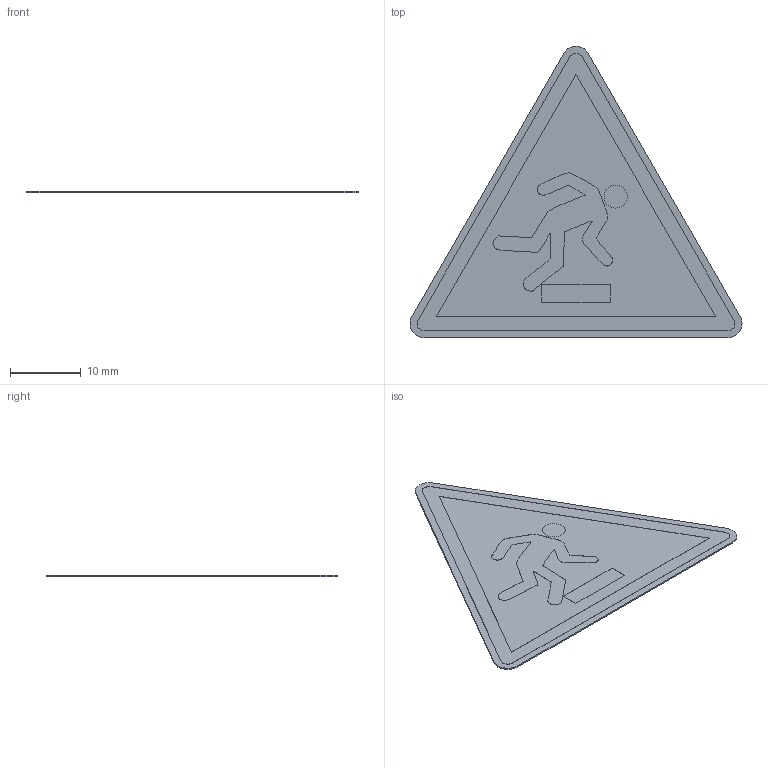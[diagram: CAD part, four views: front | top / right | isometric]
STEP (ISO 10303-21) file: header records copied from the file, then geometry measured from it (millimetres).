
FILE_DESCRIPTION (( 'STEP AP214' ), '1' );
FILE_NAME ('W007_Warnung vor Hindernissen am Boden.STEP', '2022-02-22T08:10:56', ( '' ), ( '' ), 'SwSTEP 2.0', 'SolidWorks 2021', '' );
FILE_SCHEMA (( 'AUTOMOTIVE_DESIGN' ));
Length unit declared in the file: millimetre
Products named in the file (1): W007_Warnung vor Hindernissen am Boden
Bounding box: 47.07 x 41.3 x 0.22 mm (x, y, z)
Volume: 221.3 mm3; surface area: 2185.1 mm2
Topology: 1 solids, 1 shells, 41 faces, 102 edges, 68 vertices
Faces by surface type: plane 23, cylinder 10, bspline 8
Entity records: 1947 total; most frequent: CARTESIAN_POINT 624, ORIENTED_EDGE 204, DIRECTION 174, EDGE_CURVE 102, VERTEX_POINT 68, VECTOR 66, LINE 66, AXIS2_PLACEMENT_3D 54
